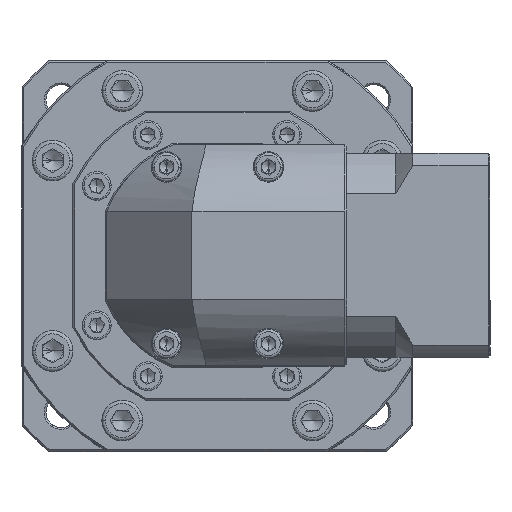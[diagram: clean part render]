
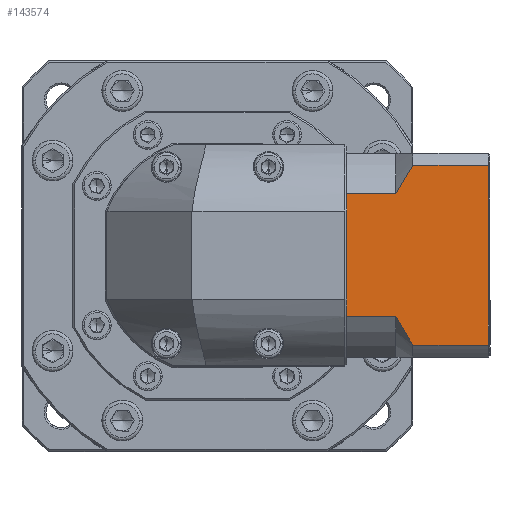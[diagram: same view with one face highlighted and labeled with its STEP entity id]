
A CAD part, top view. The second image highlights one B-rep face of the part: STEP entity #143574.
In plain terms, the highlighted planar face has unit normal (0, 0, 1).
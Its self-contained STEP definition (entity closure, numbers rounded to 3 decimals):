
#355 = VERTEX_POINT ( 'NONE', #94818 ) ;
#6682 = CARTESIAN_POINT ( 'NONE',  ( -116.719, 91.005, 144.207 ) ) ;
#7321 = ORIENTED_EDGE ( 'NONE', *, *, #35950, .T. ) ;
#7726 = ORIENTED_EDGE ( 'NONE', *, *, #106638, .T. ) ;
#8901 = EDGE_LOOP ( 'NONE', ( #128612, #80253, #118562, #7726, #123327, #7321, #99830, #62059, #86193, #44717 ) ) ;
#10749 = CARTESIAN_POINT ( 'NONE',  ( -131.967, 101.526, 144.207 ) ) ;
#11316 = VERTEX_POINT ( 'NONE', #29165 ) ;
#14578 = VERTEX_POINT ( 'NONE', #64728 ) ;
#16342 = B_SPLINE_CURVE_WITH_KNOTS ( 'NONE', 3,
 ( #16892, #96374, #118512, #38996, #6682, #28152 ),
 .UNSPECIFIED., .F., .F.,
 ( 4, 2, 4 ),
 ( 0.052, 0.057, 0.062 ),
 .UNSPECIFIED. ) ;
#16554 = LINE ( 'NONE', #10749, #132366 ) ;
#16892 = CARTESIAN_POINT ( 'NONE',  ( -112.467, 97.983, 144.207 ) ) ;
#21796 = VERTEX_POINT ( 'NONE', #138034 ) ;
#23906 = DIRECTION ( 'NONE',  ( 0., -1., 0. ) ) ;
#25422 = CARTESIAN_POINT ( 'NONE',  ( -117.467, 53.498, 144.207 ) ) ;
#28152 = CARTESIAN_POINT ( 'NONE',  ( -117.467, 89.553, 144.207 ) ) ;
#29165 = CARTESIAN_POINT ( 'NONE',  ( -90.267, 97.983, 144.207 ) ) ;
#30091 = DIRECTION ( 'NONE',  ( 0., -1., 0. ) ) ;
#33032 = EDGE_CURVE ( 'NONE', #21796, #14578, #120606, .T. ) ;
#35950 = EDGE_CURVE ( 'NONE', #109554, #355, #16554, .T. ) ;
#36700 = CARTESIAN_POINT ( 'NONE',  ( -115.916, 50.616, 144.207 ) ) ;
#38996 = CARTESIAN_POINT ( 'NONE',  ( -115.915, 92.437, 144.207 ) ) ;
#41557 = DIRECTION ( 'NONE',  ( 0., -1., 0. ) ) ;
#42138 = VECTOR ( 'NONE', #125360, 1000. ) ;
#42627 = DIRECTION ( 'NONE',  ( 1., 0., 0. ) ) ;
#42707 = DIRECTION ( 'NONE',  ( 1., 0., 0. ) ) ;
#43021 = EDGE_CURVE ( 'NONE', #109554, #132975, #61420, .T. ) ;
#43114 = CARTESIAN_POINT ( 'NONE',  ( -117.467, 89.553, 144.207 ) ) ;
#43746 = CARTESIAN_POINT ( 'NONE',  ( -117.467, 53.498, 144.207 ) ) ;
#43804 = LINE ( 'NONE', #108484, #73684 ) ;
#44717 = ORIENTED_EDGE ( 'NONE', *, *, #113065, .T. ) ;
#45625 = LINE ( 'NONE', #103793, #42138 ) ;
#45706 = VECTOR ( 'NONE', #23906, 1000. ) ;
#46266 = EDGE_CURVE ( 'NONE', #97821, #11316, #43804, .T. ) ;
#48020 = CARTESIAN_POINT ( 'NONE',  ( -117.467, 53.498, 144.207 ) ) ;
#53960 = B_SPLINE_CURVE_WITH_KNOTS ( 'NONE', 3,
 ( #25422, #117217, #36700, #59160, #82245, #137764 ),
 .UNSPECIFIED., .F., .F.,
 ( 4, 2, 4 ),
 ( 0.1, 0.104, 0.109 ),
 .UNSPECIFIED. ) ;
#54130 = CARTESIAN_POINT ( 'NONE',  ( -117.467, 97.983, 144.207 ) ) ;
#54994 = DIRECTION ( 'NONE',  ( -1., 0., 0. ) ) ;
#58376 = AXIS2_PLACEMENT_3D ( 'NONE', #65278, #120815, #42707 ) ;
#59160 = CARTESIAN_POINT ( 'NONE',  ( -114.242, 47.811, 144.207 ) ) ;
#59661 = VECTOR ( 'NONE', #132206, 1000. ) ;
#60322 = CARTESIAN_POINT ( 'NONE',  ( -112.467, 97.983, 144.207 ) ) ;
#61420 = LINE ( 'NONE', #43114, #128227 ) ;
#62059 = ORIENTED_EDGE ( 'NONE', *, *, #33032, .T. ) ;
#64728 = CARTESIAN_POINT ( 'NONE',  ( -131.967, 53.498, 144.207 ) ) ;
#65278 = CARTESIAN_POINT ( 'NONE',  ( -89.767, 101.526, 144.207 ) ) ;
#68965 = CARTESIAN_POINT ( 'NONE',  ( -90.267, 45.068, 144.207 ) ) ;
#69021 = VERTEX_POINT ( 'NONE', #60322 ) ;
#73684 = VECTOR ( 'NONE', #108980, 1000. ) ;
#74680 = EDGE_CURVE ( 'NONE', #133008, #14578, #112755, .T. ) ;
#79098 = EDGE_CURVE ( 'NONE', #69021, #11316, #119528, .T. ) ;
#80243 = CARTESIAN_POINT ( 'NONE',  ( -131.967, 101.526, 144.207 ) ) ;
#80253 = ORIENTED_EDGE ( 'NONE', *, *, #46266, .T. ) ;
#82245 = CARTESIAN_POINT ( 'NONE',  ( -113.368, 46.431, 144.207 ) ) ;
#86193 = ORIENTED_EDGE ( 'NONE', *, *, #74680, .F. ) ;
#88141 = CARTESIAN_POINT ( 'NONE',  ( -131.967, 89.553, 144.207 ) ) ;
#90719 = VECTOR ( 'NONE', #30091, 1000. ) ;
#94818 = CARTESIAN_POINT ( 'NONE',  ( -131.967, 88.562, 144.207 ) ) ;
#96374 = CARTESIAN_POINT ( 'NONE',  ( -113.366, 96.623, 144.207 ) ) ;
#97821 = VERTEX_POINT ( 'NONE', #68965 ) ;
#99830 = ORIENTED_EDGE ( 'NONE', *, *, #100411, .T. ) ;
#100411 = EDGE_CURVE ( 'NONE', #355, #21796, #142511, .T. ) ;
#103732 = FACE_OUTER_BOUND ( 'NONE', #8901, .T. ) ;
#103793 = CARTESIAN_POINT ( 'NONE',  ( -117.467, 45.068, 144.207 ) ) ;
#104120 = CARTESIAN_POINT ( 'NONE',  ( -117.467, 89.553, 144.207 ) ) ;
#106638 = EDGE_CURVE ( 'NONE', #69021, #132975, #16342, .T. ) ;
#107671 = PLANE ( 'NONE',  #58376 ) ;
#108221 = CARTESIAN_POINT ( 'NONE',  ( -131.967, 101.526, 144.207 ) ) ;
#108484 = CARTESIAN_POINT ( 'NONE',  ( -90.267, 101.526, 144.207 ) ) ;
#108980 = DIRECTION ( 'NONE',  ( 0., 1., 0. ) ) ;
#109554 = VERTEX_POINT ( 'NONE', #88141 ) ;
#112755 = LINE ( 'NONE', #43746, #121405 ) ;
#113065 = EDGE_CURVE ( 'NONE', #133008, #131824, #53960, .T. ) ;
#117217 = CARTESIAN_POINT ( 'NONE',  ( -116.717, 52.041, 144.207 ) ) ;
#118512 = CARTESIAN_POINT ( 'NONE',  ( -114.24, 95.245, 144.207 ) ) ;
#118562 = ORIENTED_EDGE ( 'NONE', *, *, #79098, .F. ) ;
#119528 = LINE ( 'NONE', #54130, #59661 ) ;
#120606 = LINE ( 'NONE', #108221, #90719 ) ;
#120815 = DIRECTION ( 'NONE',  ( 0., 0., -1. ) ) ;
#121405 = VECTOR ( 'NONE', #54994, 1000. ) ;
#123327 = ORIENTED_EDGE ( 'NONE', *, *, #43021, .F. ) ;
#125360 = DIRECTION ( 'NONE',  ( -1., 0., 0. ) ) ;
#128227 = VECTOR ( 'NONE', #42627, 1000. ) ;
#128612 = ORIENTED_EDGE ( 'NONE', *, *, #132267, .F. ) ;
#131824 = VERTEX_POINT ( 'NONE', #134378 ) ;
#132206 = DIRECTION ( 'NONE',  ( 1., 0., 0. ) ) ;
#132267 = EDGE_CURVE ( 'NONE', #97821, #131824, #45625, .T. ) ;
#132366 = VECTOR ( 'NONE', #41557, 1000. ) ;
#132975 = VERTEX_POINT ( 'NONE', #104120 ) ;
#133008 = VERTEX_POINT ( 'NONE', #48020 ) ;
#134378 = CARTESIAN_POINT ( 'NONE',  ( -112.467, 45.068, 144.207 ) ) ;
#137764 = CARTESIAN_POINT ( 'NONE',  ( -112.467, 45.068, 144.207 ) ) ;
#138034 = CARTESIAN_POINT ( 'NONE',  ( -131.967, 54.489, 144.207 ) ) ;
#142511 = LINE ( 'NONE', #80243, #45706 ) ;
#143574 = ADVANCED_FACE ( 'NONE', ( #103732 ), #107671, .F. ) ;
